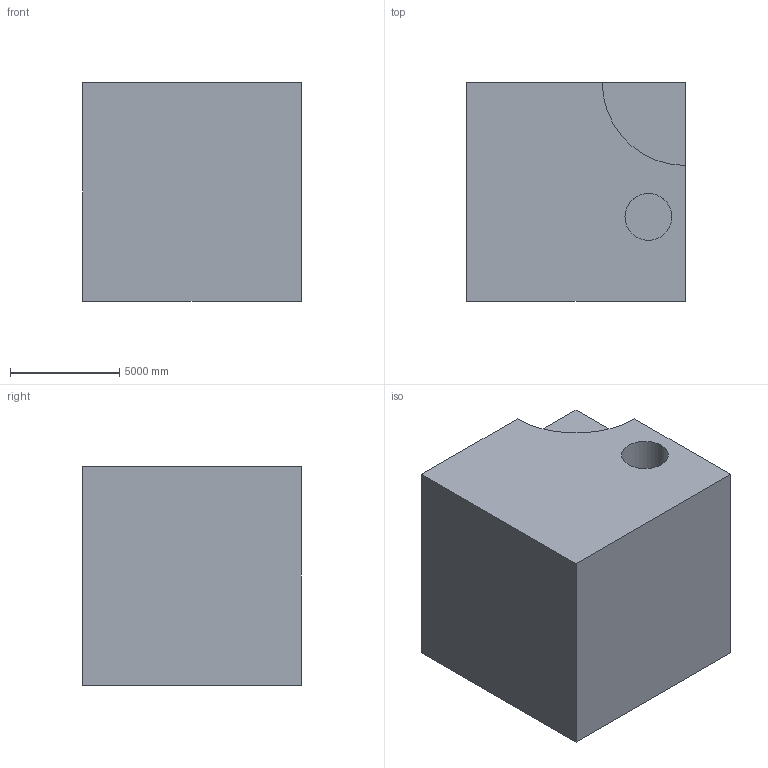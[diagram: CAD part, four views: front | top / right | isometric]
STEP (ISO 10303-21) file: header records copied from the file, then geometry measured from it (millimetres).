
FILE_DESCRIPTION (( 'STEP AP203' ), '1' );
FILE_NAME ('1105.STEP', '2022-08-18T12:46:53', ( 'user' ), ( '' ), 'SwSTEP 2.0', 'SolidWorks 2021', '' );
FILE_SCHEMA (( 'CONFIG_CONTROL_DESIGN' ));
Length unit declared in the file: centimetre
Products named in the file (1): 1105
Bounding box: 10000 x 10000 x 10000 mm (x, y, z)
Volume: 978203010183.6 mm3; surface area: 608870588.2 mm2
Topology: 1 solids, 1 shells, 11 faces, 24 edges, 16 vertices
Faces by surface type: plane 8, cylinder 3
Entity records: 381 total; most frequent: DIRECTION 54, CARTESIAN_POINT 52, ORIENTED_EDGE 48, EDGE_CURVE 24, AXIS2_PLACEMENT_3D 18, LINE 18, VECTOR 18, VERTEX_POINT 16
